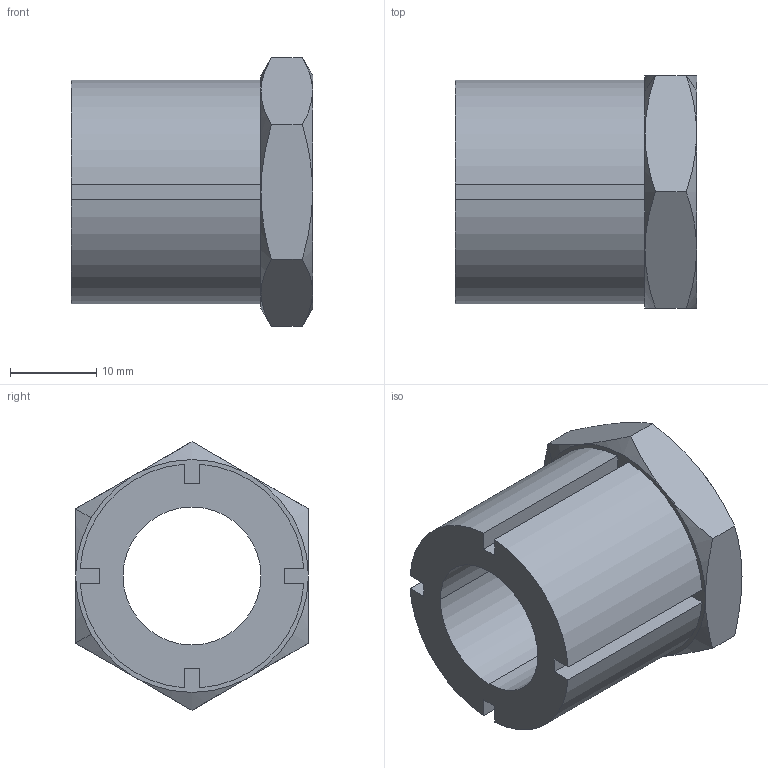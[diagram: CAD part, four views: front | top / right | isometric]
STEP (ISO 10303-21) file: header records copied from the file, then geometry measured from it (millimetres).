
FILE_DESCRIPTION((''),'2;1');
FILE_NAME('C:\WIXROYD\Positioning\3840\3840W016.stp','2003-01-09T15:39:02',('Administrator'),(''),'Autodesk Inventor (tm) 5.0','Autodesk Inventor (tm) 5.0','');
FILE_SCHEMA(('CONFIG_CONTROL_DESIGN'));
Length unit declared in the file: millimetre
Products named in the file (1): 3840W016
Bounding box: 28 x 27 x 31.18 mm (x, y, z)
Volume: 9433.3 mm3; surface area: 4966.2 mm2
Topology: 1 solids, 1 shells, 45 faces, 110 edges, 68 vertices
Faces by surface type: plane 21, cone 16, cylinder 8
Entity records: 1383 total; most frequent: CARTESIAN_POINT 272, ORIENTED_EDGE 220, DIRECTION 210, EDGE_CURVE 110, AXIS2_PLACEMENT_3D 78, VERTEX_POINT 68, VECTOR 54, LINE 54
